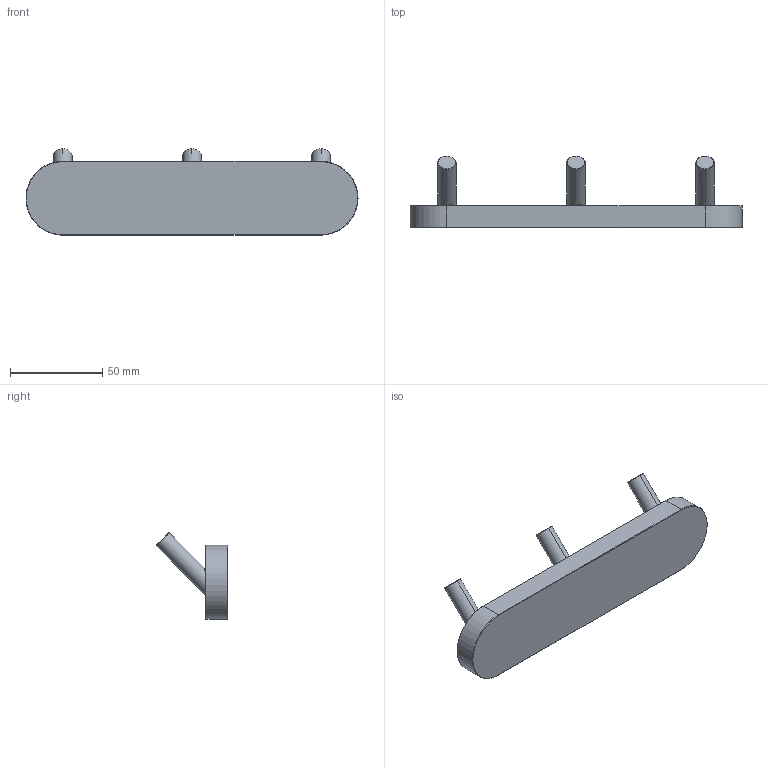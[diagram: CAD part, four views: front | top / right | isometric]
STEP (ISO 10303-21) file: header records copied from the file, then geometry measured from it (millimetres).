
FILE_DESCRIPTION(('THIS FILE CONTAINS SOME STEP INSTANCES'),'1');
FILE_NAME('har_002.stp','2015-11-25T10:03:29',('UNDEFINED'),('UNDEFINED'),'T-FLEX CAD STEP converter','T-FLEX CAD','');
FILE_SCHEMA(('CONFIG_CONTROL_DESIGN'));
Length unit declared in the file: metre
Products named in the file (1): har_002
Bounding box: 179.95 x 38.73 x 46.73 mm (x, y, z)
Volume: 90043.9 mm3; surface area: 21466 mm2
Topology: 1 solids, 1 shells, 35 faces, 70 edges, 40 vertices
Faces by surface type: plane 11, cone 10, cylinder 8, bspline 6
Entity records: 3302 total; most frequent: CARTESIAN_POINT 2666, ORIENTED_EDGE 140, DIRECTION 100, EDGE_CURVE 70, VERTEX_POINT 40, EDGE_LOOP 38, ADVANCED_FACE 35, FACE_OUTER_BOUND 35
